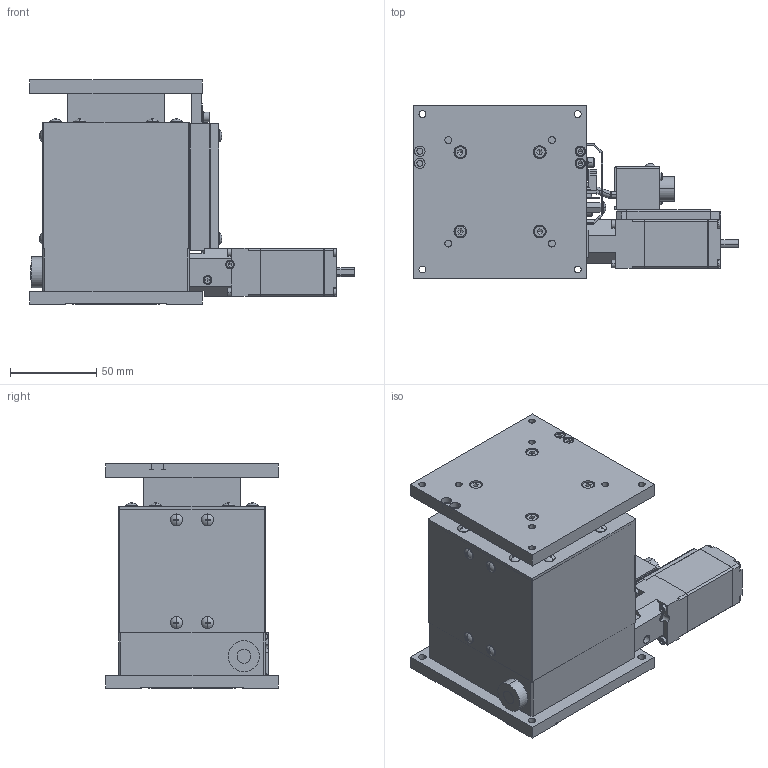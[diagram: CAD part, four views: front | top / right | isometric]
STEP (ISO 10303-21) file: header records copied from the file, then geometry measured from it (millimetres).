
FILE_DESCRIPTION (( 'STEP AP203' ), '1' );
FILE_NAME ('ZA10A-32F01.STEP', '2019-02-21T00:42:50', ( '' ), ( '' ), 'SwSTEP 2.0', 'SolidWorks 2018', '' );
FILE_SCHEMA (( 'CONFIG_CONTROL_DESIGN' ));
Length unit declared in the file: millimetre
Products named in the file (3): table; ZA10A-32F01; base
Assembly tree (2 placements, depth 2):
  ZA10A-32F01
    table
    base
Bounding box: 188 x 100 x 130 mm (x, y, z)
Volume: 529227.1 mm3; surface area: 170529.2 mm2
Topology: 2 solids, 2 shells, 1997 faces, 4958 edges, 3053 vertices
Faces by surface type: plane 1298, cylinder 415, cone 228, sphere 44, torus 12
Entity records: 59563 total; most frequent: CARTESIAN_POINT 10847, DIRECTION 10490, ORIENTED_EDGE 9780, EDGE_CURVE 4890, AXIS2_PLACEMENT_3D 3690, LINE 3110, VECTOR 3110, VERTEX_POINT 3053
